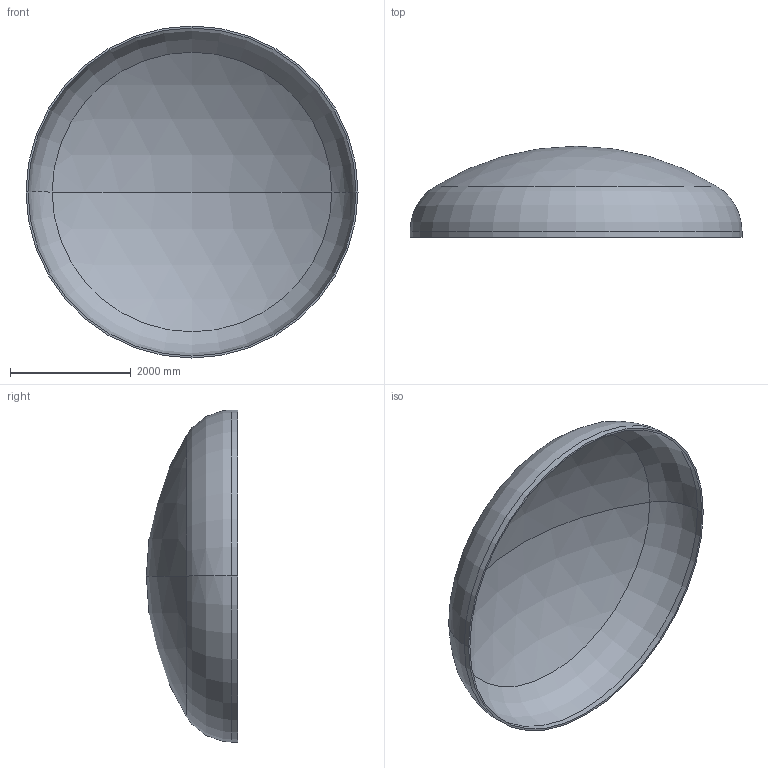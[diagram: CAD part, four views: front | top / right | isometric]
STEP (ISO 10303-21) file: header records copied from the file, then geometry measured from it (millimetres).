
FILE_DESCRIPTION (( 'STEP AP203' ), '1' );
FILE_NAME ('DIN 28013 Korbbogenform_-_Boden DIN 28013 - 5500 x 100 - I - s=33.step', '2016-07-04T10:33:56', ( '' ), ( '' ), 'SwSTEP 2.0', 'SolidWorks 2013', '' );
FILE_SCHEMA (( 'CONFIG_CONTROL_DESIGN' ));
Length unit declared in the file: millimetre
Products named in the file (1): DIN 28013 Korbbogenform_-_Boden DIN 28013 - 5500 x 100 - I - s=33
Bounding box: 5500 x 1510.81 x 5500 mm (x, y, z)
Volume: 1133487735 mm3; surface area: 69265258.2 mm2
Topology: 1 solids, 1 shells, 13 faces, 24 edges, 14 vertices
Faces by surface type: torus 4, cylinder 4, sphere 4, plane 1
Entity records: 407 total; most frequent: DIRECTION 72, CARTESIAN_POINT 52, ORIENTED_EDGE 48, AXIS2_PLACEMENT_3D 34, EDGE_CURVE 24, CIRCLE 20, VERTEX_POINT 14, EDGE_LOOP 14
